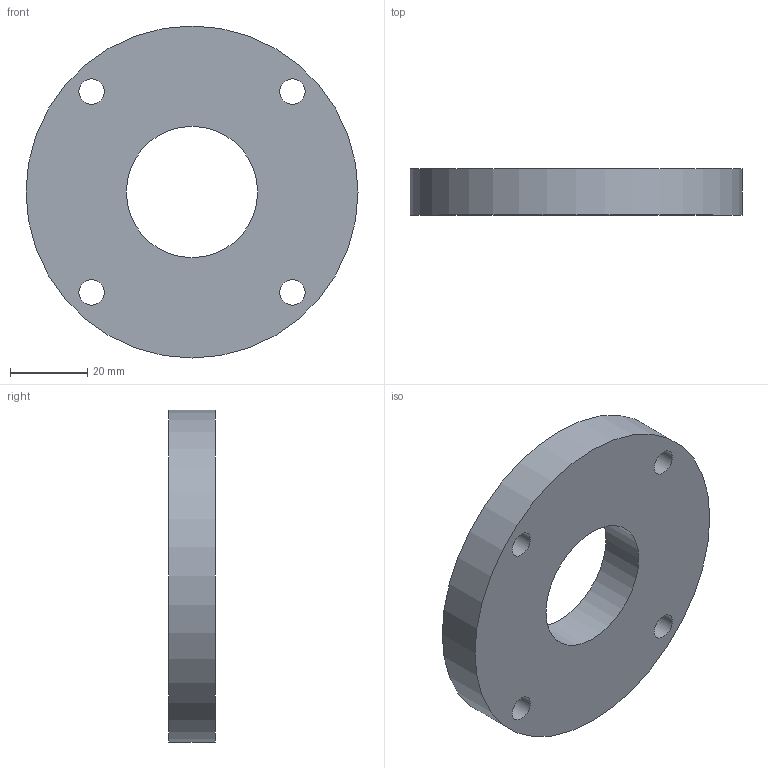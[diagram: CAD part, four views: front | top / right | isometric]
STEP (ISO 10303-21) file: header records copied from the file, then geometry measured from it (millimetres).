
FILE_DESCRIPTION(('FreeCAD Model'),'2;1');
FILE_NAME('Open CASCADE Shape Model','2026-10-05T09:22:52',('Author'),( ''),'Open CASCADE STEP processor 7.8','FreeCAD','Unknown');
FILE_SCHEMA(('AUTOMOTIVE_DESIGN { 1 0 10303 214 1 1 1 1 }'));
Length unit declared in the file: millimetre
Products named in the file (1): ShoulderMountFlange
Bounding box: 86 x 12 x 86 mm (x, y, z)
Volume: 57168.4 mm3; surface area: 15047.2 mm2
Topology: 1 solids, 1 shells, 8 faces, 18 edges, 12 vertices
Faces by surface type: cylinder 6, plane 2
Full cylindrical faces by diameter (mm): 6.6 x4, 34 x1, 86 x1
Entity records: 264 total; most frequent: DIRECTION 48, CARTESIAN_POINT 39, ORIENTED_EDGE 36, AXIS2_PLACEMENT_3D 21, FACE_BOUND 18, EDGE_LOOP 18, EDGE_CURVE 18, VERTEX_POINT 12
